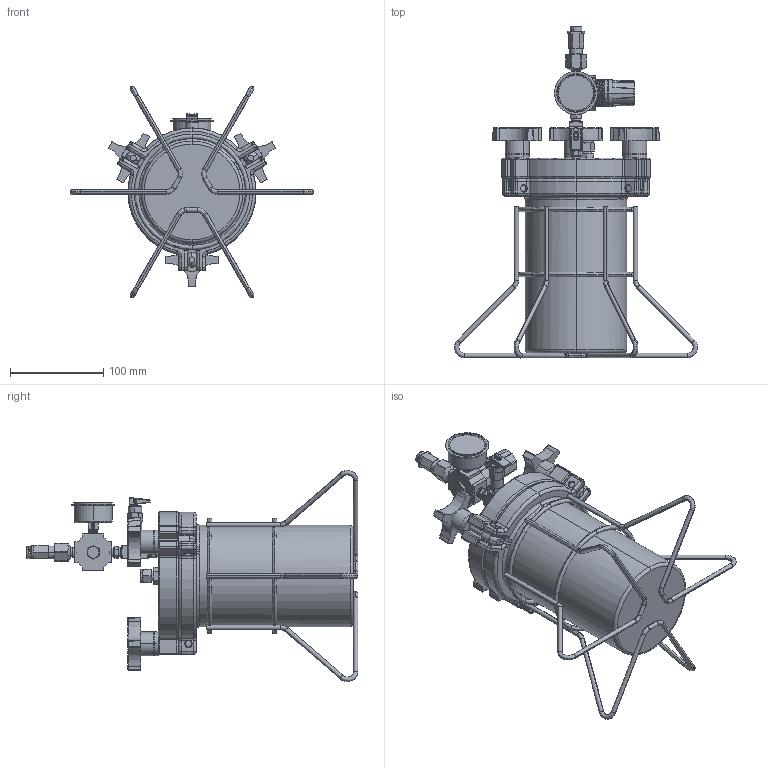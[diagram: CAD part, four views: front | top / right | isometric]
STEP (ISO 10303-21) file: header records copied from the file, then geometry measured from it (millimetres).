
FILE_DESCRIPTION (( 'STEP AP214' ), '1' );
FILE_NAME ('NORDSONEFD-7020121 1 LITER TANK 0-15PSI.STEP', '2019-02-02T15:12:31', ( '' ), ( '' ), 'SwSTEP 2.0', 'SolidWorks 2019', '' );
FILE_SCHEMA (( 'AUTOMOTIVE_DESIGN' ));
Length unit declared in the file: inch
Products named in the file (1): NORDSONEFD-7020121 1 LITER TANK 0-15PSI
Bounding box: 260.31 x 355.15 x 226.09 mm (x, y, z)
Volume: 2424336.2 mm3; surface area: 215548.6 mm2
Topology: 2 solids, 2 shells, 1491 faces, 3819 edges, 2331 vertices
Faces by surface type: cylinder 505, plane 414, cone 239, torus 197, bspline 102, sphere 34
Entity records: 70001 total; most frequent: CARTESIAN_POINT 25309, ORIENTED_EDGE 7578, DIRECTION 7357, EDGE_CURVE 3789, AXIS2_PLACEMENT_3D 2941, VERTEX_POINT 2331, EDGE_LOOP 1578, CIRCLE 1551
